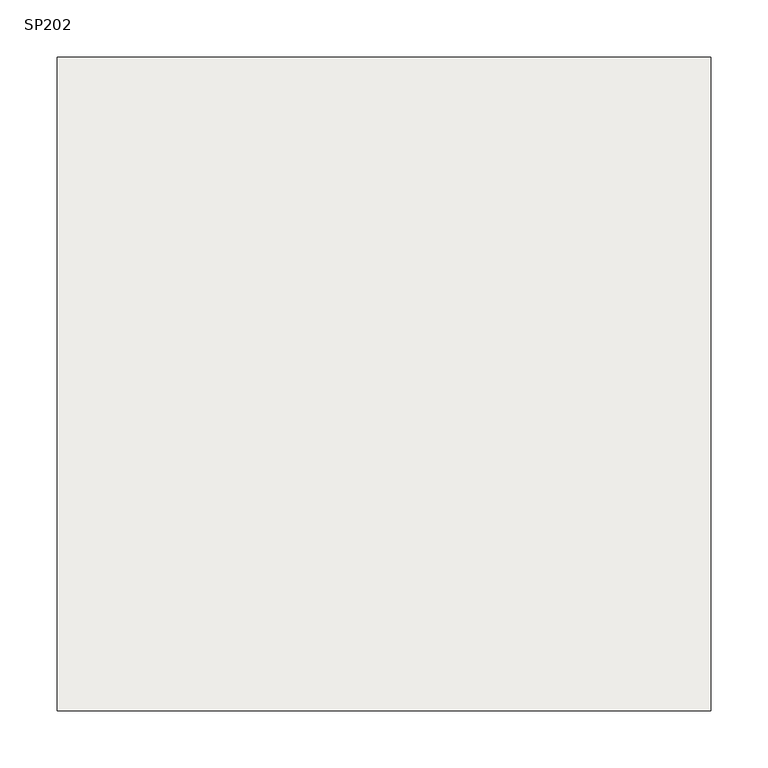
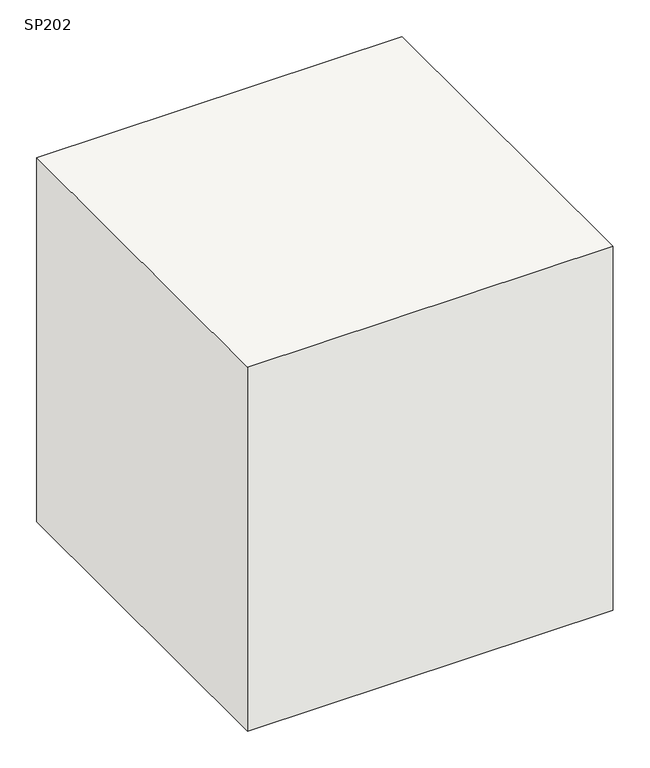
"""IFC4 building model written with IfcOpenShell, lengths in millimetres: slab geometry, 柱形_SP : SP202."""

from ifc_helpers import new_model, si_unit, frame, origin, place, context, project, spatial, polyline, outline, extrude, source, transform, mapped, element, save


def sp202_64a20f4a(model_context):
    return source(origin(), model_context, "Body", "SweptSolid", [
        extrude(outline(polyline([(285.0, 285.0), (285.0, -285.0), (-285.0, -285.0), (-285.0, 285.0), (285.0, 285.0)])), frame((0.0, 0.0, -600.0), z_axis=(0.0, 0.0, 1.0), x_axis=(1.0, 0.0, 0.0)), (0.0, 0.0, 1.0), 600.0),
    ])


if __name__ == "__main__":
    model = new_model("IFC4")
    model_context = context("Model", 3, world=origin())
    ifc_project = project(units=[si_unit("LENGTHUNIT", "METRE", prefix="MILLI")], contexts=[model_context])
    site = spatial("IfcSite", under=ifc_project)
    building = spatial("IfcBuilding", under=site)
    placement = place(None, origin())
    sp202_shape = sp202_64a20f4a(model_context)
    element("IfcSlab", 1, ObjectType="柱形_SP : SP202", at=placement, inside=building, context=model_context, shape_type="MappedRepresentation", body=[
        mapped(sp202_shape, transform((0.0, 0.0, 0.0), x_axis=(1.0, 0.0, 0.0), y_axis=(0.0, 1.0, 0.0), z_axis=(0.0, 0.0, 1.0))),
    ])
    save(model, "model.ifc")
